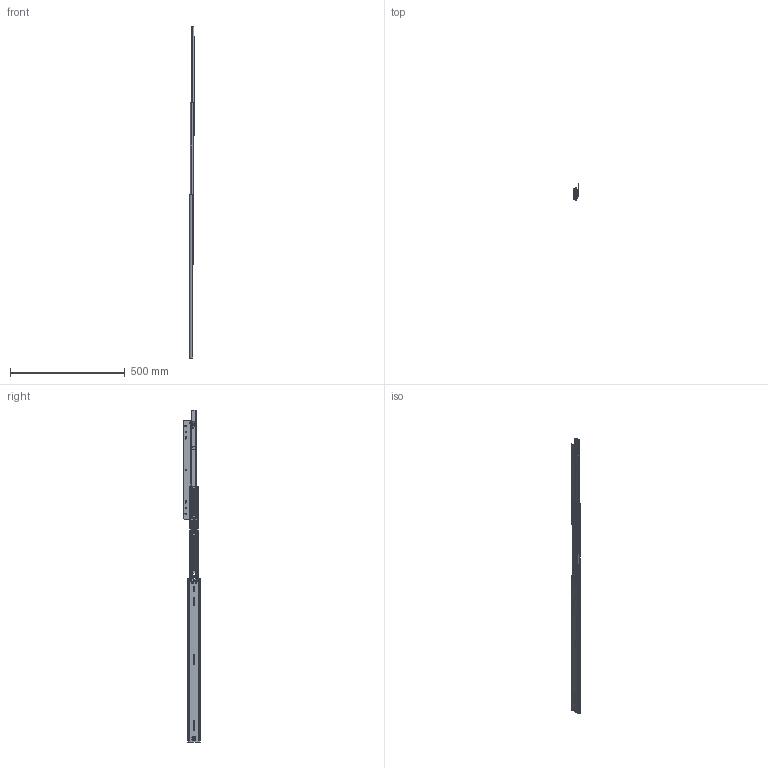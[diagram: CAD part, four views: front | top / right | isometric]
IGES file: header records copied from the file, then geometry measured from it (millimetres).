
Global section: file name: No Iges File Name specified; native system: Autodesk Inventor 2012; preprocessor: AutoDesk Inventor Iges Exporter R2012; author: HV83751; date: 20130708.085340; units: inch
Bounding box: 22.61 x 70.18 x 1448.26 mm (x, y, z)
Volume: 280142.5 mm3; surface area: 359808.4 mm2
Topology: 11 solids, 44 shells, 1700 faces, 4932 edges, 3204 vertices
Faces by surface type: plane 834, revolution 436, cylinder 369, bspline 52, torus 9
